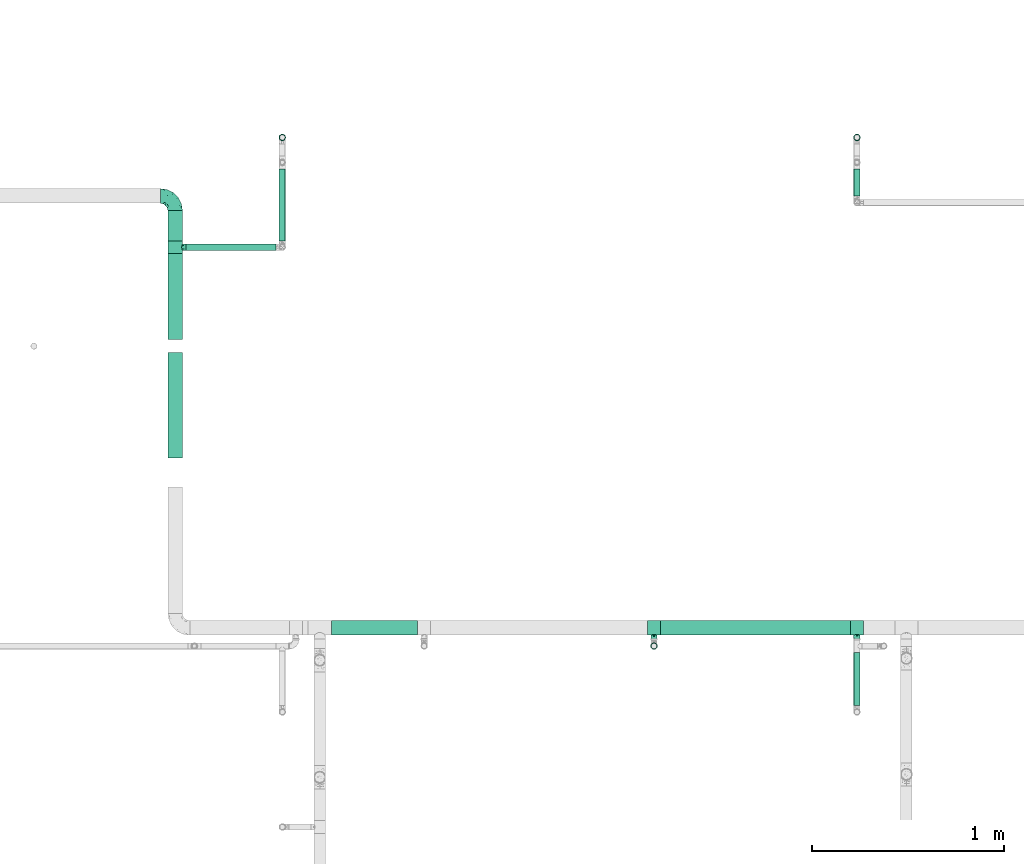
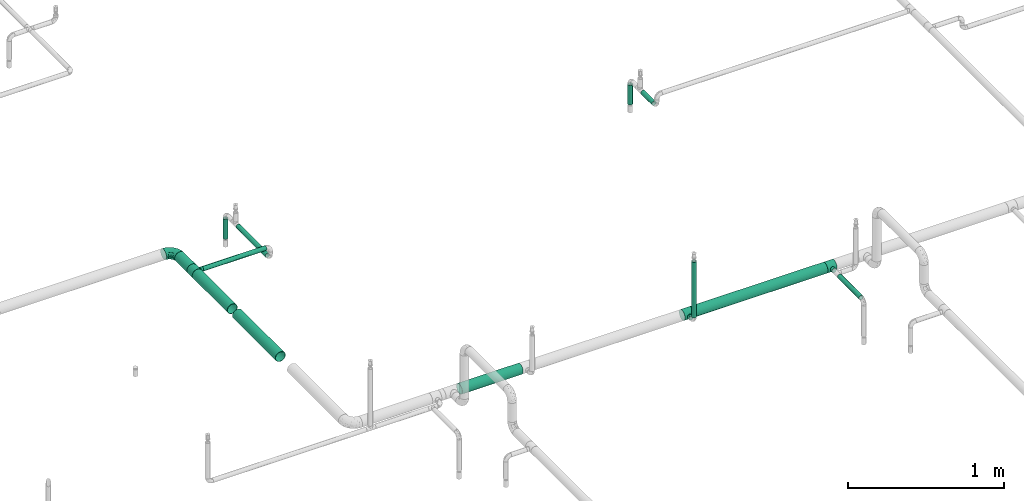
# One storey, part 18 of 157: 12 flow segments, 4 flow fittings.
"""IFC2X3 building model written with IfcOpenShell, lengths in millimetres."""

from ifc_helpers import new_model, entity, si_unit, converted_unit, derived_unit, direction, frame, origin_with_axes, origin_2d_with_axis, place, context, subcontext, project, spatial, hollow_circle, extrude, open_shell, surface_model, source, transform, mapped, type_object, element, save


model = new_model("IFC2X3")

# Units and contexts
model_context = context("Model", 3, precision=0.01, world=frame((0.0, 4.29681676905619e-09, 0.0)), true_north=direction((4.01073788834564e-13, 1.0)))
plan_context = context("Plan", 3, precision=0.01, world=frame((0.0, 4.29681676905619e-09, 0.0)), true_north=direction((4.01073788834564e-13, 1.0)))
body_context = subcontext(model_context, "Body", "Model", "MODEL_VIEW")
ifc_project = project(units=[converted_unit("PLANEANGLEUNIT", "DEGREE", entity("IfcPositiveLengthMeasure", 0.0174532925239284), si_unit("PLANEANGLEUNIT", "RADIAN"), dimensions=[0, 0, 0, 0, 0, 0, 0]), si_unit("AREAUNIT", "SQUARE_METRE"), si_unit("LENGTHUNIT", "METRE", prefix="MILLI"), si_unit("MASSUNIT", "GRAM", prefix="KILO"), si_unit("POWERUNIT", "WATT"), si_unit("PRESSUREUNIT", "PASCAL"), si_unit("FORCEUNIT", "NEWTON", prefix="KILO"), si_unit("ELECTRICCURRENTUNIT", "AMPERE"), si_unit("THERMODYNAMICTEMPERATUREUNIT", "DEGREE_CELSIUS"), si_unit("TIMEUNIT", "SECOND"), si_unit("VOLUMEUNIT", "CUBIC_METRE"), derived_unit("LINEARVELOCITYUNIT", [(si_unit("LENGTHUNIT", "METRE"), 1), (si_unit("TIMEUNIT", "SECOND"), -1)]), derived_unit("VOLUMETRICFLOWRATEUNIT", [(si_unit("VOLUMEUNIT", "CUBIC_METRE"), 1), (si_unit("TIMEUNIT", "SECOND"), -1)]), derived_unit("THERMALTRANSMITTANCEUNIT", [(si_unit("POWERUNIT", "WATT"), 1), (si_unit("THERMODYNAMICTEMPERATUREUNIT", "KELVIN"), -1), (si_unit("AREAUNIT", "SQUARE_METRE"), -1)])], contexts=[model_context, plan_context])

# Site, building, storey
site_placement = place(None, frame((0.0, -4.29681676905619e-09, 0.0), z_axis=(0.0, 0.0, 1.0), x_axis=(1.0, 0.0, 0.0)))
site = spatial("IfcSite", under=ifc_project, at=site_placement, CompositionType="ELEMENT")
building_placement = place(site_placement, frame((0.0, 4.29681676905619e-09, 0.0), z_axis=(0.0, 0.0, 1.0), x_axis=(1.0, 0.0, 0.0)))
building = spatial("IfcBuilding", under=site, at=building_placement, Name="mc-building", CompositionType="ELEMENT")
storey_placement = place(building_placement, frame((0.0, 0.0, 204000.0), z_axis=(0.0, 0.0, 1.0), x_axis=(1.0, 0.0, 0.0)))
storey = spatial("IfcBuildingStorey", under=building, at=storey_placement, Name="Nivå D", CompositionType="ELEMENT", Elevation=204000.0)

# Flow fittings
pipe_fitting_type_1 = type_object("IfcPipeFittingType", Name="magi_pipe_fe_elbow_short_001", PredefinedType="BEND")
shared_shape_1 = source(origin_with_axes(), body_context, "Body", "SurfaceModel", [
    surface_model("IfcShellBasedSurfaceModel", [(-76.2, 19.05, -32.99557), (-76.2, 9.86101, -36.80177), (-76.2, 0.0, -38.1), (-76.2, 26.94077, -26.94077), (-76.2, 36.80177, -9.86101), (-76.2, 32.99557, -19.05), (-76.2, -26.94077, -26.94077), (-76.2, -36.80177, -9.86101), (-76.2, -19.05, -32.99557), (-76.2, -9.86101, -36.80177), (-76.2, -32.99557, -19.05), (-76.2, -38.1, 0.0), (-76.2, -36.80177, 9.86101), (-76.2, 26.94077, 26.94077), (-76.2, 36.80177, 9.86101), (-76.2, 32.99557, 19.05), (-76.2, 9.86101, 36.80177), (-76.2, 19.05, 32.99557), (-76.2, 0.0, 38.1), (-76.2, -32.99557, 19.05), (-76.2, -26.94077, 26.94077), (-76.2, -9.86101, 36.80177), (-76.2, -19.05, 32.99557), (-76.2, 38.1, 0.0), (0.0, 76.2, -38.1), (-9.86101, 76.2, -36.80177), (-19.05, 76.2, -32.99557), (-26.94077, 76.2, -26.94077), (-32.99557, 76.2, -19.05), (-36.80177, 76.2, -9.86101), (26.94077, 76.2, -26.94077), (36.80177, 76.2, -9.86101), (9.86101, 76.2, -36.80177), (19.05, 76.2, -32.99557), (32.99557, 76.2, -19.05), (36.80177, 76.2, 9.86101), (38.1, 76.2, 0.0), (-36.80177, 76.2, 9.86101), (-26.94077, 76.2, 26.94077), (-32.99557, 76.2, 19.05), (-19.05, 76.2, 32.99557), (-9.86101, 76.2, 36.80177), (0.0, 76.2, 38.1), (26.94077, 76.2, 26.94077), (32.99557, 76.2, 19.05), (9.86101, 76.2, 36.80177), (19.05, 76.2, 32.99557), (-38.1, 76.2, 0.0), (-51.47253, -33.41495, 11.97429), (-55.87921, -29.59735, 21.38675), (-40.87936, -32.50576, 0.0), (-57.46182, -35.13216, 0.0), (-9.7569, -13.15819, 14.69187), (-2.65186, -10.17769, 8.01257), (2.20082, -2.20082, 15.78668), (-58.2046, -5.04721, 37.4484), (-53.35237, 5.84022, 38.03506), (13.01533, 9.30417, 14.3119), (23.26567, 31.00373, 18.95093), (8.92292, 13.82363, 24.31711), (-37.93212, -0.34191, 36.92855), (-55.73356, -14.37507, 34.26516), (-29.5907, -8.99996, 31.84562), (-48.87429, -21.76577, 28.30344), (-34.13735, -29.20196, 7.83838), (-24.94775, -24.3882, 0.0), (-13.82363, -8.92292, 24.31711), (-6.80575, 6.80575, 31.14998), (-37.24299, 60.80967, 16.55959), (-31.82754, 59.31737, 25.03043), (-14.22204, 65.71998, 35.68746), (-5.22176, 56.99222, 38.00642), (-58.73143, 14.94265, 35.9909), (-9.94517, 25.51838, 37.4103), (-18.93111, 6.98952, 35.57772), (-3.89226, 20.58438, 35.01344), (-65.91802, 23.07271, 31.04479), (-13.24152, 37.4675, 38.03164), (-28.22122, 28.22122, 37.17425), (-22.68668, 16.64938, 37.90374), (-60.23482, 40.58212, 8.37688), (-60.8286, 37.23683, 16.55705), (-47.30619, 47.30619, 14.2421), (-59.55922, 31.76102, 25.00381), (21.76577, 48.87429, 28.30344), (-39.51357, 50.50487, 21.56421), (14.37507, 55.73356, 34.26516), (29.59735, 55.87921, 21.38675), (33.41495, 51.47253, 11.97429), (-9.01615, -16.27064, 0.0), (-18.50075, -20.95742, 9.87146), (5.04721, 58.2046, 37.4484), (-41.86713, 16.32002, 37.41817), (-37.38612, 9.33613, 38.08374), (24.3882, 24.94775, 0.0), (29.20196, 34.13735, 7.83838), (20.95742, 18.50075, 9.87146), (35.13216, 57.46182, 0.0), (-40.50473, 25.85184, 35.24027), (-31.00373, -23.26567, 18.95093), (-27.62233, 49.24446, 32.02197), (-23.27638, 63.88751, 31.20285), (-40.10509, 61.46399, 8.17366), (-47.75011, 49.97248, 6.70535), (17.55292, 30.69115, 25.82241), (8.99996, 29.5907, 31.84562), (-43.20443, 57.15, 0.0), (-35.27088, 40.23417, 31.3068), (-52.46543, 25.86294, 32.08413), (-0.58232, 0.58231, 22.50977), (-21.74145, 39.43998, 36.62577), (-30.35377, 36.8865, 34.66668), (-16.47755, 51.62643, 36.28492), (-40.16133, 42.54966, 26.98796), (-48.93373, 40.93898, 21.24545), (0.34191, 37.93212, 36.92855), (-30.54899, -16.70018, 26.56572), (10.38979, 2.76708, 7.59679), (32.50576, 40.87936, 0.0), (16.27064, 9.01615, 0.0), (-57.15, 43.20443, 0.0), (3.62725, -3.62725, 0.0), (-56.18403, 32.81229, -25.37784), (-60.79374, 37.24818, -16.56172), (-31.12583, -9.61531, -31.96506), (-33.08389, -0.47526, -36.23756), (-15.30809, -0.63756, -31.219), (-60.31522, 4.8175, -37.976), (-55.58208, -34.10815, -12.42093), (-47.87166, -28.25416, -20.6363), (-36.35476, -28.57081, -12.78243), (-55.4317, 15.55274, -36.12913), (-41.97308, 9.00674, -38.09177), (-32.8123, 56.18403, -25.37784), (-61.68117, 39.97816, -8.33686), (-23.91371, 59.81378, -31.51803), (-15.55274, 55.4317, -36.12913), (-48.48008, 48.48008, -9.09668), (22.76239, 55.12076, -28.76608), (13.14871, 48.24989, -33.88525), (15.02018, 64.34702, -34.67535), (-7.42295, -13.4022, -10.03386), (-7.53093, -9.8797, -17.36177), (4.09889, -3.23385, -10.05311), (-22.23209, 20.60173, -38.07837), (-36.11879, 22.54399, -36.96599), (-59.81378, 23.91371, -31.51803), (-64.14494, -30.32973, -22.13621), (-37.06617, 43.2809, -28.69704), (-35.21221, 35.21221, -33.45314), (-46.56802, 32.18433, -30.26847), (3.32253, -0.70027, -16.3296), (-55.12076, -22.76239, -28.76608), (28.25416, 47.87166, -20.6363), (34.10815, 55.58208, -12.42093), (28.57081, 36.35476, -12.78243), (-64.34702, -15.02018, -34.67535), (4.80394, 56.13349, -37.40338), (-24.08639, -18.54476, -20.78452), (-28.44745, -15.54194, -26.65272), (-13.81153, -9.41447, -23.82138), (-41.58053, -17.39667, -29.91543), (-48.24989, -13.14871, -33.88525), (-56.1335, -4.80394, -37.40338), (-28.5499, 46.87201, -32.27447), (-39.97816, 61.68117, -8.33686), (-4.8175, 60.31522, -37.976), (-13.45022, 13.45022, -35.97664), (0.47526, 33.08389, -36.23756), (1.60394, 17.89715, -31.77365), (-37.24818, 60.79374, -16.56172), (-45.75928, 45.75928, -18.77942), (30.32973, 64.14494, -22.13621), (22.08018, 30.6107, -20.46174), (12.28189, 14.44402, -21.13272), (15.54194, 28.44745, -26.65272), (7.87454, 32.5264, -33.28409), (-9.00674, 41.97308, -38.09177), (-46.32128, 24.51975, -34.33978), (-22.71812, 37.0764, -36.7817), (-0.36118, 0.36118, -22.07635), (-17.64772, -21.30183, -6.55407), (19.53658, 18.92928, -14.18962), (21.30183, 17.64772, -6.55407), (4.4885, 11.61303, -26.72553), (-18.92929, -19.53658, -14.18962)], [open_shell([[[0, 1, 2]], [[3, 0, 2]], [[4, 5, 3]], [[6, 3, 2]], [[4, 3, 7]], [[8, 6, 9]], [[6, 2, 9]], [[10, 7, 6]], [[6, 7, 3]], [[11, 12, 7]], [[12, 4, 7]], [[13, 14, 4]], [[15, 14, 13]], [[16, 17, 13]], [[4, 12, 13]], [[13, 18, 16]], [[19, 20, 12]], [[21, 12, 20]], [[22, 21, 20]], [[21, 13, 12]], [[21, 18, 13]], [[23, 4, 14]], [[24, 25, 26]], [[24, 26, 27]], [[27, 28, 29]], [[24, 27, 30]], [[31, 27, 29]], [[32, 30, 33]], [[32, 24, 30]], [[30, 31, 34]], [[27, 31, 30]], [[31, 35, 36]], [[31, 29, 35]], [[29, 37, 38]], [[38, 37, 39]], [[38, 40, 41]], [[29, 38, 35]], [[42, 38, 41]], [[35, 43, 44]], [[43, 35, 45]], [[43, 45, 46]], [[35, 38, 45]], [[38, 42, 45]], [[37, 29, 47]], [[48, 49, 19]], [[50, 48, 51]], [[52, 53, 54]], [[12, 48, 19]], [[12, 51, 48]], [[18, 55, 56]], [[19, 49, 20]], [[57, 58, 59]], [[60, 61, 62]], [[63, 22, 20]], [[63, 61, 22]], [[64, 50, 65]], [[62, 66, 67]], [[39, 68, 69]], [[41, 70, 71]], [[16, 72, 17]], [[73, 74, 75]], [[17, 76, 13]], [[21, 55, 18]], [[77, 78, 79]], [[80, 81, 82]], [[15, 83, 81]], [[84, 43, 46]], [[23, 14, 80]], [[14, 15, 81]], [[68, 85, 69]], [[83, 15, 13]], [[18, 56, 16]], [[46, 86, 84]], [[13, 76, 83]], [[87, 58, 88]], [[39, 37, 68]], [[89, 90, 65]], [[42, 91, 45]], [[65, 90, 64]], [[42, 41, 71]], [[92, 93, 79]], [[88, 35, 44]], [[44, 43, 87]], [[87, 88, 44]], [[94, 95, 96]], [[88, 97, 35]], [[98, 72, 92]], [[49, 99, 63]], [[69, 100, 101]], [[82, 102, 103]], [[104, 105, 59]], [[106, 102, 47]], [[98, 107, 108]], [[102, 82, 68]], [[86, 46, 45]], [[69, 38, 39]], [[109, 54, 57]], [[110, 100, 111]], [[22, 61, 21]], [[101, 40, 38]], [[70, 41, 40]], [[112, 77, 71]], [[84, 86, 105]], [[96, 95, 58]], [[100, 69, 113]], [[72, 16, 56]], [[108, 113, 83]], [[81, 114, 82]], [[112, 110, 77]], [[91, 71, 115]], [[62, 61, 63]], [[55, 61, 60]], [[116, 99, 66]], [[74, 62, 67]], [[91, 86, 45]], [[105, 86, 115]], [[75, 105, 115]], [[109, 67, 66]], [[59, 105, 67]], [[48, 64, 99]], [[99, 49, 48]], [[63, 20, 49]], [[43, 84, 87]], [[58, 87, 84]], [[92, 72, 56]], [[76, 72, 108]], [[102, 68, 37]], [[82, 114, 85]], [[98, 111, 107]], [[112, 70, 101]], [[114, 83, 113]], [[82, 103, 80]], [[92, 79, 78]], [[115, 71, 77]], [[74, 79, 60]], [[77, 79, 73]], [[71, 91, 42]], [[86, 91, 115]], [[61, 55, 21]], [[56, 55, 60]], [[57, 54, 117]], [[104, 59, 58]], [[116, 66, 62]], [[52, 99, 90]], [[12, 11, 51]], [[97, 88, 118]], [[97, 36, 35]], [[53, 90, 89]], [[90, 53, 52]], [[94, 96, 119]], [[88, 95, 118]], [[117, 54, 53]], [[92, 56, 93]], [[98, 92, 78]], [[111, 98, 78]], [[72, 98, 108]], [[110, 111, 78]], [[107, 111, 100]], [[47, 102, 37]], [[102, 106, 103]], [[106, 120, 103]], [[103, 120, 80]], [[23, 80, 120]], [[14, 81, 80]], [[56, 60, 93]], [[60, 79, 93]], [[117, 121, 119]], [[121, 117, 53]], [[53, 89, 121]], [[119, 96, 117]], [[117, 96, 57]], [[77, 110, 78]], [[100, 110, 112]], [[83, 114, 81]], [[85, 114, 113]], [[69, 85, 113]], [[82, 85, 68]], [[109, 52, 54]], [[99, 52, 66]], [[69, 101, 38]], [[112, 101, 100]], [[100, 113, 107]], [[108, 107, 113]], [[62, 74, 60]], [[75, 74, 67]], [[105, 75, 67]], [[73, 75, 115]], [[77, 73, 115]], [[74, 73, 79]], [[99, 64, 90]], [[50, 64, 48]], [[118, 95, 94]], [[58, 95, 88]], [[58, 57, 96]], [[109, 57, 59]], [[72, 76, 17]], [[83, 76, 108]], [[101, 70, 40]], [[71, 70, 112]], [[58, 84, 104]], [[105, 104, 84]], [[67, 109, 59]], [[52, 109, 66]], [[62, 63, 116]], [[99, 116, 63]], [[122, 5, 123]], [[124, 125, 126]], [[2, 1, 127]], [[128, 129, 130]], [[127, 131, 132]], [[28, 27, 133]], [[120, 134, 23]], [[135, 26, 136]], [[123, 134, 137]], [[138, 139, 140]], [[122, 3, 5]], [[141, 142, 143]], [[144, 132, 145]], [[131, 0, 146]], [[128, 10, 147]], [[148, 149, 150]], [[128, 51, 7]], [[142, 151, 143]], [[152, 6, 8]], [[153, 154, 155]], [[156, 152, 8]], [[32, 157, 24]], [[158, 159, 160]], [[147, 10, 6]], [[129, 152, 161]], [[156, 8, 9]], [[162, 163, 125]], [[154, 34, 31]], [[120, 106, 137]], [[149, 148, 164]], [[47, 29, 165]], [[163, 9, 2]], [[5, 4, 123]], [[25, 166, 136]], [[167, 168, 169]], [[170, 133, 171]], [[25, 24, 166]], [[33, 30, 138]], [[157, 32, 140]], [[29, 28, 170]], [[30, 34, 172]], [[26, 135, 27]], [[132, 131, 145]], [[32, 33, 140]], [[173, 174, 175]], [[169, 168, 176]], [[25, 136, 26]], [[175, 138, 173]], [[168, 177, 157]], [[163, 162, 156]], [[153, 172, 154]], [[10, 128, 7]], [[154, 97, 118]], [[131, 178, 145]], [[0, 3, 146]], [[175, 139, 138]], [[155, 118, 94]], [[131, 1, 0]], [[146, 178, 131]], [[170, 137, 165]], [[149, 179, 145]], [[171, 133, 148]], [[160, 180, 142]], [[65, 181, 89]], [[170, 165, 29]], [[137, 171, 123]], [[172, 138, 30]], [[138, 153, 173]], [[168, 157, 139]], [[166, 157, 177]], [[176, 175, 169]], [[168, 167, 144]], [[154, 31, 97]], [[155, 182, 173]], [[162, 124, 161]], [[147, 152, 129]], [[127, 163, 2]], [[132, 144, 125]], [[132, 125, 163]], [[125, 167, 126]], [[129, 158, 130]], [[31, 36, 97]], [[143, 182, 183]], [[169, 126, 167]], [[3, 122, 146]], [[178, 150, 149]], [[136, 179, 164]], [[133, 27, 135]], [[123, 4, 134]], [[122, 123, 171]], [[133, 170, 28]], [[137, 170, 171]], [[184, 175, 174]], [[180, 160, 126]], [[126, 169, 184]], [[126, 159, 124]], [[51, 128, 50]], [[51, 11, 7]], [[131, 127, 1]], [[163, 127, 132]], [[157, 166, 24]], [[136, 166, 177]], [[164, 179, 149]], [[144, 167, 125]], [[179, 144, 145]], [[168, 144, 177]], [[136, 177, 179]], [[144, 179, 177]], [[141, 121, 89]], [[89, 181, 141]], [[154, 118, 155]], [[183, 155, 94]], [[143, 183, 119]], [[119, 183, 94]], [[155, 183, 182]], [[181, 130, 185]], [[50, 128, 130]], [[130, 181, 65]], [[50, 130, 65]], [[141, 181, 185]], [[142, 141, 185]], [[143, 121, 141]], [[158, 160, 142]], [[142, 180, 151]], [[158, 142, 185]], [[126, 160, 159]], [[130, 158, 185]], [[129, 159, 158]], [[23, 134, 4]], [[120, 137, 134]], [[137, 106, 165]], [[47, 165, 106]], [[174, 151, 180]], [[182, 143, 151]], [[150, 146, 122]], [[149, 145, 178]], [[146, 150, 178]], [[122, 171, 148]], [[148, 150, 122]], [[164, 133, 135]], [[133, 164, 148]], [[164, 135, 136]], [[138, 140, 33]], [[157, 140, 139]], [[154, 172, 34]], [[138, 172, 153]], [[163, 156, 9]], [[152, 156, 162]], [[152, 147, 6]], [[128, 147, 129]], [[155, 173, 153]], [[174, 173, 182]], [[151, 174, 182]], [[174, 180, 184]], [[126, 184, 180]], [[175, 184, 169]], [[168, 139, 176]], [[175, 176, 139]], [[161, 124, 159]], [[125, 124, 162]], [[129, 161, 159]], [[162, 161, 152]], [[143, 119, 121]]])]),
])
flow_fitting_placement = place(storey_placement, frame((523940.35581, 416294.70476, 2690.0), z_axis=(0.0, 0.0, 1.0), x_axis=(0.0, 1.0, 0.0)))
element("IfcFlowFitting", 1, at=flow_fitting_placement, inside=storey, type_object=pipe_fitting_type_1, Name="magi_pipe_fe_elbow_short_001", context=body_context, shape_type="MappedRepresentation", body=[
    mapped(shared_shape_1, transform((0.0, 0.0, 0.0), scale=1.0)),
])
pipe_fitting_type_2 = type_object("IfcPipeFittingType", Name="magi_pipe_fe_tee_centric_90_NOR", PredefinedType="JUNCTION")
shared_shape_2 = source(origin_with_axes(), body_context, "Body", "SurfaceModel", [
    surface_model("IfcShellBasedSurfaceModel", [(-33.8, 9.86101, -36.80177), (-33.8, 0.0, -38.1), (-33.8, 36.80177, -9.86101), (-33.8, 19.05, -32.99557), (-33.8, 32.99557, -19.05), (-33.8, 26.94077, -26.94077), (-33.8, -38.1, 0.0), (-33.8, -19.05, -32.99557), (-33.8, -26.94077, -26.94077), (-33.8, -9.86101, -36.80177), (-33.8, -32.99557, -19.05), (-33.8, -36.80177, -9.86101), (-33.8, 38.1, 0.0), (-33.8, 32.99557, 19.05), (-33.8, 36.80177, 9.86101), (-33.8, -36.80177, 9.86101), (-33.8, 19.05, 32.99557), (-33.8, 26.94077, 26.94077), (-33.8, 9.86101, 36.80177), (-33.8, 0.0, 38.1), (-33.8, -26.94077, 26.94077), (-33.8, -32.99557, 19.05), (-33.8, -9.86101, 36.80177), (-33.8, -19.05, 32.99557), (33.8, 0.0, -38.1), (33.8, 9.86101, -36.80177), (33.8, 19.05, -32.99557), (33.8, 26.94077, -26.94077), (33.8, 32.99557, -19.05), (33.8, 36.80177, -9.86101), (33.8, -38.1, 0.0), (33.8, -9.86101, -36.80177), (33.8, -26.94077, -26.94077), (33.8, -19.05, -32.99557), (33.8, -32.99557, -19.05), (33.8, -36.80177, -9.86101), (33.8, 36.80177, 9.86101), (33.8, 32.99557, 19.05), (33.8, 19.05, 32.99557), (33.8, 0.0, 38.1), (33.8, 26.94077, 26.94077), (33.8, 9.86101, 36.80177), (33.8, -26.94077, 26.94077), (33.8, -32.99557, 19.05), (33.8, -36.80177, 9.86101), (33.8, -19.05, 32.99557), (33.8, -9.86101, 36.80177), (33.8, 38.1, 0.0), (33.8, -37.45089, 4.9305), (15.86072, -37.65053, 5.83504), (16.9, -38.1, 0.0), (12.92726, -36.51183, 10.88559), (2.96752, -34.27545, 16.63742), (33.8, -34.89867, 14.4555), (8.48894, -35.18611, 14.61328), (-8.4904, -35.18646, 14.61243), (-33.8, -34.89867, 14.4555), (-15.8612, -37.65073, 5.83372), (-33.8, -37.45089, 4.9305), (-16.9, -38.1, 0.0), (-12.9317, -36.51341, 10.88031), (-2.97221, -34.27585, 16.63658), (-33.8, -37.45089, -4.9305), (-15.8612, -37.65073, -5.83372), (15.86072, -37.65053, -5.83504), (33.8, -37.45089, -4.9305), (-12.9317, -36.51341, -10.88031), (-33.8, -34.89867, -14.4555), (-8.4904, -35.18646, -14.61243), (2.96752, -34.27545, -16.63742), (8.48894, -35.18611, -14.61328), (33.8, -34.89867, -14.4555), (12.92726, -36.51183, -10.88559), (-2.97221, -34.27585, -16.63658), (4.37404, -57.15, -16.32415), (-16.9, -57.15, 0.0), (0.0, -57.15, -16.9), (14.63583, -57.15, -8.45), (8.45, -57.15, -14.63583), (16.32415, -57.15, -4.37404), (11.9501, -57.15, -11.9501), (-11.9501, -57.15, -11.9501), (-8.45, -57.15, -14.63583), (-4.37404, -57.15, -16.32415), (-14.63583, -57.15, -8.45), (-16.32415, -57.15, -4.37404), (16.9, -57.15, 0.0), (8.45, -57.15, 14.63583), (16.32415, -57.15, 4.37404), (14.63583, -57.15, 8.45), (-8.45, -57.15, 14.63583), (11.9501, -57.15, 11.9501), (4.37404, -57.15, 16.32415), (-16.32415, -57.15, 4.37404), (-11.9501, -57.15, 11.9501), (-14.63583, -57.15, 8.45), (0.0, -57.15, 16.9), (-4.37404, -57.15, 16.32415), (-16.3806, -37.87537, 2.91686), (-5.7313, -34.73116, 15.62451), (-0.00235, -34.27565, 16.637), (5.72823, -34.73078, 15.62535), (16.38036, -37.87526, 2.91752), (16.38036, -37.87526, -2.91752), (5.72823, -34.73078, -15.62535), (-0.00235, -34.27565, -16.637), (-5.7313, -34.73116, -15.62451), (-16.3806, -37.87537, -2.91686)], [open_shell([[[0, 1, 2]], [[3, 0, 2]], [[2, 4, 5]], [[3, 2, 5]], [[6, 2, 1]], [[7, 8, 9]], [[8, 1, 9]], [[10, 11, 8]], [[6, 8, 11]], [[8, 6, 1]], [[6, 12, 2]], [[13, 14, 12]], [[15, 13, 6]], [[16, 13, 15]], [[17, 13, 16]], [[18, 16, 19]], [[20, 19, 21]], [[16, 15, 21]], [[22, 19, 23]], [[20, 23, 19]], [[21, 19, 16]], [[12, 6, 13]], [[24, 25, 26]], [[24, 26, 27]], [[27, 28, 29]], [[24, 27, 30]], [[30, 27, 29]], [[31, 32, 33]], [[31, 24, 32]], [[34, 30, 35]], [[30, 34, 32]], [[24, 30, 32]], [[29, 36, 30]], [[36, 37, 30]], [[30, 37, 38]], [[38, 39, 30]], [[38, 37, 40]], [[39, 38, 41]], [[30, 42, 43]], [[44, 30, 43]], [[45, 39, 46]], [[45, 42, 30]], [[30, 39, 45]], [[36, 29, 47]], [[48, 44, 49]], [[50, 30, 48]], [[44, 51, 49]], [[43, 42, 52]], [[50, 48, 49]], [[44, 53, 51]], [[52, 54, 43]], [[42, 20, 52]], [[54, 53, 43]], [[55, 21, 56]], [[57, 58, 59]], [[6, 59, 58]], [[57, 60, 15]], [[55, 61, 21]], [[51, 53, 54]], [[15, 60, 56]], [[21, 61, 20]], [[56, 60, 55]], [[61, 52, 20]], [[57, 15, 58]], [[42, 23, 20]], [[19, 46, 39]], [[22, 45, 46]], [[18, 39, 41]], [[37, 36, 14]], [[17, 38, 40]], [[13, 40, 37]], [[41, 38, 16]], [[12, 36, 47]], [[23, 45, 22]], [[22, 46, 19]], [[18, 19, 39]], [[41, 16, 18]], [[16, 38, 17]], [[13, 17, 40]], [[14, 13, 37]], [[36, 12, 14]], [[45, 23, 42]], [[12, 47, 29]], [[29, 28, 2]], [[59, 62, 63]], [[27, 4, 28]], [[9, 24, 31]], [[0, 26, 25]], [[64, 35, 65]], [[24, 1, 25]], [[31, 33, 7]], [[27, 26, 5]], [[66, 67, 68]], [[4, 2, 28]], [[12, 29, 2]], [[27, 5, 4]], [[3, 26, 0]], [[26, 3, 5]], [[0, 25, 1]], [[9, 1, 24]], [[31, 7, 9]], [[33, 8, 7]], [[32, 34, 69]], [[70, 34, 71]], [[70, 69, 34]], [[35, 72, 71]], [[32, 69, 8]], [[30, 50, 65]], [[64, 72, 35]], [[64, 65, 50]], [[72, 70, 71]], [[73, 68, 10]], [[10, 8, 73]], [[68, 67, 10]], [[73, 8, 69]], [[66, 63, 11]], [[63, 62, 11]], [[62, 59, 6]], [[11, 67, 66]], [[32, 8, 33]], [[74, 75, 76]], [[77, 74, 78]], [[77, 79, 74]], [[77, 78, 80]], [[75, 74, 79]], [[76, 81, 82]], [[82, 83, 76]], [[84, 75, 85]], [[81, 76, 84]], [[75, 84, 76]], [[79, 86, 75]], [[87, 86, 88]], [[87, 88, 89]], [[90, 75, 87]], [[87, 89, 91]], [[90, 87, 92]], [[93, 94, 95]], [[94, 93, 90]], [[90, 96, 97]], [[93, 75, 90]], [[92, 96, 90]], [[87, 75, 86]], [[93, 98, 75]], [[60, 95, 94]], [[93, 95, 57]], [[94, 90, 55]], [[98, 59, 75]], [[57, 95, 60]], [[97, 61, 99]], [[55, 60, 94]], [[96, 52, 100]], [[87, 101, 92]], [[99, 90, 97]], [[99, 55, 90]], [[93, 57, 98]], [[92, 52, 96]], [[49, 89, 88]], [[102, 86, 50]], [[102, 49, 88]], [[91, 89, 51]], [[96, 61, 97]], [[101, 52, 92]], [[87, 54, 101]], [[87, 91, 54]], [[54, 91, 51]], [[51, 89, 49]], [[86, 102, 88]], [[100, 61, 96]], [[79, 103, 86]], [[72, 77, 80]], [[79, 77, 64]], [[80, 78, 70]], [[103, 50, 86]], [[64, 77, 72]], [[74, 69, 104]], [[70, 72, 80]], [[76, 73, 105]], [[82, 106, 83]], [[107, 75, 59]], [[104, 78, 74]], [[104, 70, 78]], [[68, 82, 81]], [[79, 64, 103]], [[63, 84, 85]], [[107, 63, 85]], [[84, 66, 81]], [[76, 69, 74]], [[83, 106, 73]], [[73, 76, 83]], [[68, 106, 82]], [[68, 81, 66]], [[66, 84, 63]], [[75, 107, 85]], [[105, 69, 76]]])]),
])
for number, where, z_axis, x_axis, name in (
    (2, (523940.35581, 416026.97024, 2690.0), (0.0, 0.0, -1.0), (0.0, -1.0, 0.0), "magi_pipe_fe_tee_centric_90_NOR"),
    (3, (526440.35, 414039.35389, 2690.0), (0.0, 0.0, -1.0), (-1.0, 0.0, 0.0), "magi_pipe_fe_tee_centric_90_NOR"),
    (4, (527499.97645, 414039.35389, 2690.0), (0.0, 0.0, -1.0), (-1.0, 0.0, 0.0), "magi_pipe_fe_tee_centric_90_NOR"),
):
    element("IfcFlowFitting", number, at=place(storey_placement, frame(where, z_axis=z_axis, x_axis=x_axis)), inside=storey, type_object=pipe_fitting_type_2, Name=name, context=body_context, shape_type="MappedRepresentation", body=[
        mapped(shared_shape_2, transform((0.0, 0.0, 0.0), scale=1.0)),
    ])

# Flow segments
pipe_segment_type = type_object("IfcPipeSegmentType", Name="Stålrør normaltykke", PredefinedType="RIGIDSEGMENT")
shared_shape_3 = source(origin_with_axes(), body_context, "Body", "SweptSolid", [
    extrude(hollow_circle(Radius=16.9, WallThickness=2.0, at=origin_2d_with_axis()), frame((0.0, 0.0, 0.0), z_axis=(1.0, 0.0, 0.0), x_axis=(0.0, 1.0, 0.0)), (0.0, 0.0, 1.0), 156.8),
])
flow_segment_1_placement = place(storey_placement, frame((524499.93275, 416600.0, 2409.35200000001), z_axis=(0.0, 1.0, 0.0), x_axis=(0.0, 0.0, 1.0)))
element("IfcFlowSegment", 5, at=flow_segment_1_placement, inside=storey, type_object=pipe_segment_type, Name="Stålrør normaltykke", context=body_context, shape_type="MappedRepresentation", body=[
    mapped(shared_shape_3, transform((0.0, 0.0, 0.0), scale=1.0, scale2=1.0, scale3=1.0, uniform=False)),
])
shared_shape_4 = source(origin_with_axes(), body_context, "Body", "SweptSolid", [
    extrude(hollow_circle(Radius=16.9, WallThickness=2.0, at=origin_2d_with_axis()), frame((0.0, 0.0, 0.0), z_axis=(1.0, 0.0, 0.0), x_axis=(0.0, 1.0, 0.0)), (0.0, 0.0, 1.0), 153.8),
])
flow_segment_2_placement = place(storey_placement, frame((527500.0, 416600.0, 2412.39999999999), z_axis=(0.0, 1.0, 0.0), x_axis=(0.0, 0.0, 1.0)))
element("IfcFlowSegment", 6, at=flow_segment_2_placement, inside=storey, type_object=pipe_segment_type, Name="Stålrør normaltykke", context=body_context, shape_type="MappedRepresentation", body=[
    mapped(shared_shape_4, transform((0.0, 0.0, 0.0), scale=1.0)),
])
shared_shape_5 = source(origin_with_axes(), body_context, "Body", "SweptSolid", [
    extrude(hollow_circle(Radius=16.9, WallThickness=2.0, at=origin_2d_with_axis()), frame((0.0, 0.0, 0.0), z_axis=(1.0, 0.0, 0.0), x_axis=(0.0, 1.0, 0.0)), (0.0, 0.0, 1.0), 435.5),
])
flow_segment_3_placement = place(storey_placement, frame((526440.35, 413944.735, 3160.14799999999), z_axis=(0.0, 1.0, 0.0), x_axis=(0.0, 0.0, -1.0)))
element("IfcFlowSegment", 7, at=flow_segment_3_placement, inside=storey, type_object=pipe_segment_type, Name="Stålrør normaltykke", context=body_context, shape_type="MappedRepresentation", body=[
    mapped(shared_shape_5, transform((0.0, 0.0, 0.0), scale=1.0)),
])
shared_shape_6 = source(origin_with_axes(), body_context, "Body", "SweptSolid", [
    extrude(hollow_circle(Radius=38.0, WallThickness=2.0, at=origin_2d_with_axis()), frame((0.0, 0.0, 0.0), z_axis=(1.0, 0.0, 0.0), x_axis=(0.0, 1.0, 0.0)), (0.0, 0.0, 1.0), 157.7),
])
flow_segment_4_placement = place(storey_placement, frame((523940.35581, 416060.77024, 2690.0), z_axis=(0.0, 0.0, 1.0), x_axis=(0.0, 1.0, 0.0)))
element("IfcFlowSegment", 8, at=flow_segment_4_placement, inside=storey, type_object=pipe_segment_type, Name="Stålrør normaltykke", context=body_context, shape_type="MappedRepresentation", body=[
    mapped(shared_shape_6, transform((0.0, 0.0, 0.0), scale=1.0)),
])
shared_shape_7 = source(origin_with_axes(), body_context, "Body", "SweptSolid", [
    extrude(hollow_circle(Radius=16.9, WallThickness=2.0, at=origin_2d_with_axis()), frame((0.0, 0.0, 0.0), z_axis=(1.0, 0.0, 0.0), x_axis=(0.0, 1.0, 0.0)), (0.0, 0.0, 1.0), 142.7),
])
flow_segment_5_placement = place(storey_placement, frame((527500.0, 416436.4949, 2600.0), z_axis=(0.0, 0.0, 1.0), x_axis=(0.0, -1.0, 0.0)))
element("IfcFlowSegment", 9, at=flow_segment_5_placement, inside=storey, type_object=pipe_segment_type, Name="Stålrør normaltykke", context=body_context, shape_type="MappedRepresentation", body=[
    mapped(shared_shape_7, transform((0.0, 0.0, 0.0), scale=1.0)),
])
shared_shape_8 = source(origin_with_axes(), body_context, "Body", "SweptSolid", [
    extrude(hollow_circle(Radius=16.9, WallThickness=2.0, at=origin_2d_with_axis()), frame((0.0, 0.0, 0.0), z_axis=(1.0, 0.0, 0.0), x_axis=(0.0, 1.0, 0.0)), (0.0, 0.0, 1.0), 468.6),
])
flow_segment_6_placement = place(storey_placement, frame((523997.50581, 416026.97024, 2690.0), z_axis=(0.0, 0.0, 1.0), x_axis=(1.0, 0.0, 0.0)))
element("IfcFlowSegment", 10, at=flow_segment_6_placement, inside=storey, type_object=pipe_segment_type, Name="Stålrør normaltykke", context=body_context, shape_type="MappedRepresentation", body=[
    mapped(shared_shape_8, transform((0.0, 0.0, 0.0), scale=1.0)),
])
shared_shape_9 = source(origin_with_axes(), body_context, "Body", "SweptSolid", [
    extrude(hollow_circle(Radius=38.0, WallThickness=2.0, at=origin_2d_with_axis()), frame((0.0, 0.0, 0.0), z_axis=(1.0, 0.0, 0.0), x_axis=(0.0, 1.0, 0.0)), (0.0, 0.0, 1.0), 449.2),
])
flow_segment_7_placement = place(storey_placement, frame((523940.35581, 415543.95307, 2690.0), z_axis=(0.0, 0.0, 1.0), x_axis=(0.0, 1.0, 0.0)))
element("IfcFlowSegment", 11, at=flow_segment_7_placement, inside=storey, type_object=pipe_segment_type, Name="Stålrør normaltykke", context=body_context, shape_type="MappedRepresentation", body=[
    mapped(shared_shape_9, transform((0.0, 0.0, 0.0), scale=1.0)),
])
shared_shape_10 = source(origin_with_axes(), body_context, "Body", "SweptSolid", [
    extrude(hollow_circle(Radius=16.9, WallThickness=2.0, at=origin_2d_with_axis()), frame((0.0, 0.0, 0.0), z_axis=(1.0, 0.0, 0.0), x_axis=(0.0, 1.0, 0.0)), (0.0, 0.0, 1.0), 375.4),
])
flow_segment_8_placement = place(storey_placement, frame((524499.91685, 416436.19999, 2600.0), z_axis=(0.0, 0.0, 1.0), x_axis=(0.0, -1.0, 0.0)))
element("IfcFlowSegment", 12, at=flow_segment_8_placement, inside=storey, type_object=pipe_segment_type, Name="Stålrør normaltykke", context=body_context, shape_type="MappedRepresentation", body=[
    mapped(shared_shape_10, transform((0.0, 0.0, 0.0), scale=1.0)),
])
shared_shape_11 = source(origin_with_axes(), body_context, "Body", "SweptSolid", [
    extrude(hollow_circle(Radius=38.0, WallThickness=2.0, at=origin_2d_with_axis()), frame((0.0, 0.0, 0.0), z_axis=(1.0, 0.0, 0.0), x_axis=(0.0, 1.0, 0.0)), (0.0, 0.0, 1.0), 450.8),
])
flow_segment_9_placement = place(storey_placement, frame((524755.75, 414039.35389, 2690.0), z_axis=(0.0, 0.0, 1.0), x_axis=(1.0, 0.0, 0.0)))
element("IfcFlowSegment", 13, at=flow_segment_9_placement, inside=storey, type_object=pipe_segment_type, Name="Stålrør normaltykke", context=body_context, shape_type="MappedRepresentation", body=[
    mapped(shared_shape_11, transform((0.0, 0.0, 0.0), scale=1.0)),
])
shared_shape_12 = source(origin_with_axes(), body_context, "Body", "SweptSolid", [
    extrude(hollow_circle(Radius=16.9, WallThickness=2.0, at=origin_2d_with_axis()), frame((0.0, 0.0, 0.0), z_axis=(1.0, 0.0, 0.0), x_axis=(0.0, 1.0, 0.0)), (0.0, 0.0, 1.0), 277.1),
])
flow_segment_10_placement = place(storey_placement, frame((527499.97704, 413910.935, 2690.0), z_axis=(0.0, 0.0, 1.0), x_axis=(0.0, -1.0, 0.0)))
element("IfcFlowSegment", 14, at=flow_segment_10_placement, inside=storey, type_object=pipe_segment_type, Name="Stålrør normaltykke", context=body_context, shape_type="MappedRepresentation", body=[
    mapped(shared_shape_12, transform((0.0, 0.0, 0.0), scale=1.0)),
])
shared_shape_13 = source(origin_with_axes(), body_context, "Body", "SweptSolid", [
    extrude(hollow_circle(Radius=38.0, WallThickness=2.0, at=origin_2d_with_axis()), frame((0.0, 0.0, 0.0), z_axis=(1.0, 0.0, 0.0), x_axis=(0.0, 1.0, 0.0)), (0.0, 0.0, 1.0), 992.0),
])
flow_segment_11_placement = place(storey_placement, frame((526474.15, 414039.35389, 2690.0), z_axis=(0.0, 0.0, 1.0), x_axis=(1.0, 0.0, 0.0)))
element("IfcFlowSegment", 15, at=flow_segment_11_placement, inside=storey, type_object=pipe_segment_type, Name="Stålrør normaltykke", context=body_context, shape_type="MappedRepresentation", body=[
    mapped(shared_shape_13, transform((0.0, 0.0, 0.0), scale=1.0)),
])
shared_shape_14 = source(origin_with_axes(), body_context, "Body", "SweptSolid", [
    extrude(hollow_circle(Radius=38.0, WallThickness=2.0, at=origin_2d_with_axis()), frame((0.0, 0.0, 0.0), z_axis=(1.0, 0.0, 0.0), x_axis=(0.0, 1.0, 0.0)), (0.0, 0.0, 1.0), 550.1),
])
flow_segment_12_placement = place(storey_placement, frame((523940.35581, 414926.27123, 2690.0), z_axis=(0.0, 0.0, 1.0), x_axis=(0.0, 1.0, 0.0)))
element("IfcFlowSegment", 16, at=flow_segment_12_placement, inside=storey, type_object=pipe_segment_type, Name="Stålrør normaltykke", context=body_context, shape_type="MappedRepresentation", body=[
    mapped(shared_shape_14, transform((0.0, 0.0, 0.0), scale=1.0)),
])

save(model, "model.ifc")
